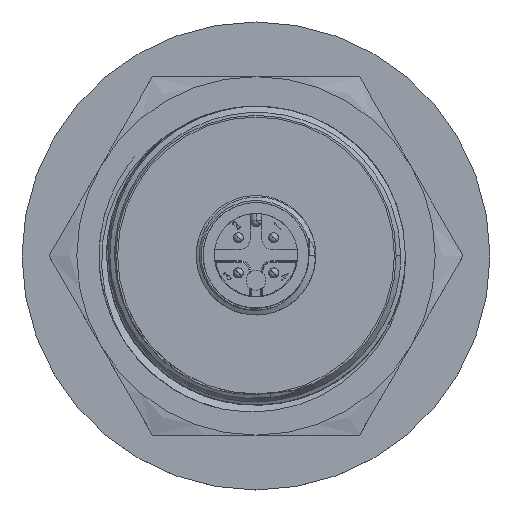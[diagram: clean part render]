
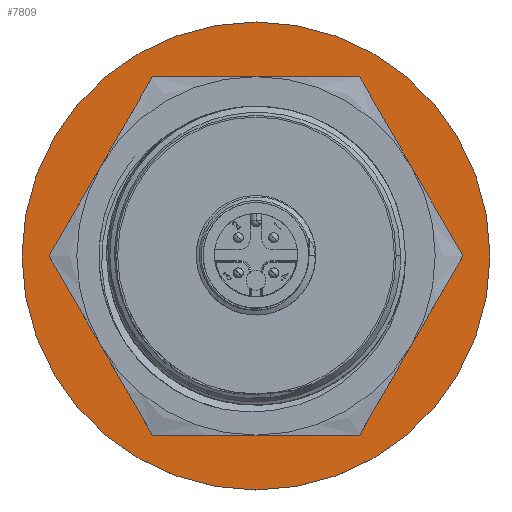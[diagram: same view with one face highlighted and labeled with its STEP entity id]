
A CAD part, top view. The second image highlights one B-rep face of the part: STEP entity #7809.
In plain terms, the highlighted planar face has unit normal (0, 0, 1).
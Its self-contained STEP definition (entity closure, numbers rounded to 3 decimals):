
#158 = CARTESIAN_POINT ( 'NONE',  ( 0., 0., 1. ) ) ;
#192 = DIRECTION ( 'NONE',  ( 1., 0., 0. ) ) ;
#1699 = AXIS2_PLACEMENT_3D ( 'NONE', #5433, #12634, #17477 ) ;
#2503 = DIRECTION ( 'NONE',  ( 1., 0., 0. ) ) ;
#2664 = DIRECTION ( 'NONE',  ( 1., 0., 0. ) ) ;
#4192 = CIRCLE ( 'NONE', #1699, 17.5 ) ;
#4427 = CARTESIAN_POINT ( 'NONE',  ( 0., 0., 1. ) ) ;
#4444 = VERTEX_POINT ( 'NONE', #23482 ) ;
#4688 = CARTESIAN_POINT ( 'NONE',  ( 0., 0., 1. ) ) ;
#5433 = CARTESIAN_POINT ( 'NONE',  ( 0., 0., 1. ) ) ;
#6318 = AXIS2_PLACEMENT_3D ( 'NONE', #14395, #7815, #2503 ) ;
#7078 = ORIENTED_EDGE ( 'NONE', *, *, #22426, .T. ) ;
#7110 = CARTESIAN_POINT ( 'NONE',  ( 23.5, 0., 1. ) ) ;
#7411 = VERTEX_POINT ( 'NONE', #7110 ) ;
#7758 = ORIENTED_EDGE ( 'NONE', *, *, #23594, .T. ) ;
#7809 = ADVANCED_FACE ( 'NONE', ( #9410, #9555 ), #28476, .T. ) ;
#7815 = DIRECTION ( 'NONE',  ( 0., 0., 1. ) ) ;
#8625 = EDGE_LOOP ( 'NONE', ( #13561, #10360 ) ) ;
#9410 = FACE_BOUND ( 'NONE', #8625, .T. ) ;
#9555 = FACE_OUTER_BOUND ( 'NONE', #13725, .T. ) ;
#10360 = ORIENTED_EDGE ( 'NONE', *, *, #24052, .F. ) ;
#10364 = VERTEX_POINT ( 'NONE', #11478 ) ;
#11478 = CARTESIAN_POINT ( 'NONE',  ( -23.5, 0., 1. ) ) ;
#12344 = AXIS2_PLACEMENT_3D ( 'NONE', #4427, #19449, #192 ) ;
#12634 = DIRECTION ( 'NONE',  ( 0., 0., 1. ) ) ;
#13561 = ORIENTED_EDGE ( 'NONE', *, *, #26650, .F. ) ;
#13725 = EDGE_LOOP ( 'NONE', ( #7758, #7078 ) ) ;
#14395 = CARTESIAN_POINT ( 'NONE',  ( 0., 0., 1. ) ) ;
#15344 = AXIS2_PLACEMENT_3D ( 'NONE', #158, #18787, #20975 ) ;
#16652 = VERTEX_POINT ( 'NONE', #26099 ) ;
#16738 = DIRECTION ( 'NONE',  ( 0., 0., 1. ) ) ;
#17477 = DIRECTION ( 'NONE',  ( 1., 0., 0. ) ) ;
#18787 = DIRECTION ( 'NONE',  ( 0., 0., 1. ) ) ;
#19449 = DIRECTION ( 'NONE',  ( 0., 0., 1. ) ) ;
#20090 = AXIS2_PLACEMENT_3D ( 'NONE', #4688, #16738, #2664 ) ;
#20975 = DIRECTION ( 'NONE',  ( 1., 0., 0. ) ) ;
#21832 = CIRCLE ( 'NONE', #12344, 23.5 ) ;
#22426 = EDGE_CURVE ( 'NONE', #7411, #10364, #22797, .T. ) ;
#22797 = CIRCLE ( 'NONE', #6318, 23.5 ) ;
#23482 = CARTESIAN_POINT ( 'NONE',  ( -17.5, 0., 1. ) ) ;
#23594 = EDGE_CURVE ( 'NONE', #10364, #7411, #21832, .T. ) ;
#24052 = EDGE_CURVE ( 'NONE', #16652, #4444, #25344, .T. ) ;
#25344 = CIRCLE ( 'NONE', #15344, 17.5 ) ;
#26099 = CARTESIAN_POINT ( 'NONE',  ( 17.5, 0., 1. ) ) ;
#26650 = EDGE_CURVE ( 'NONE', #4444, #16652, #4192, .T. ) ;
#28476 = PLANE ( 'NONE',  #20090 ) ;
